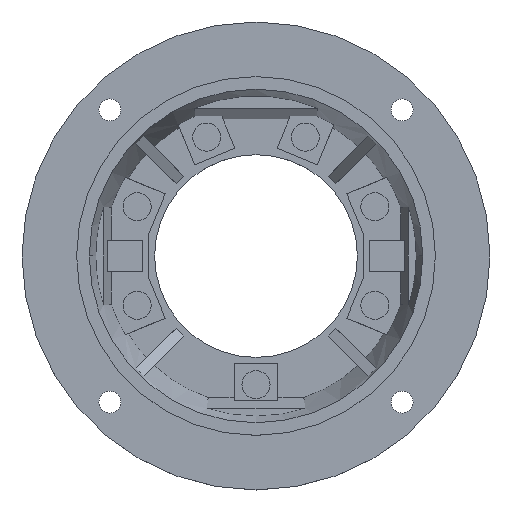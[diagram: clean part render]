
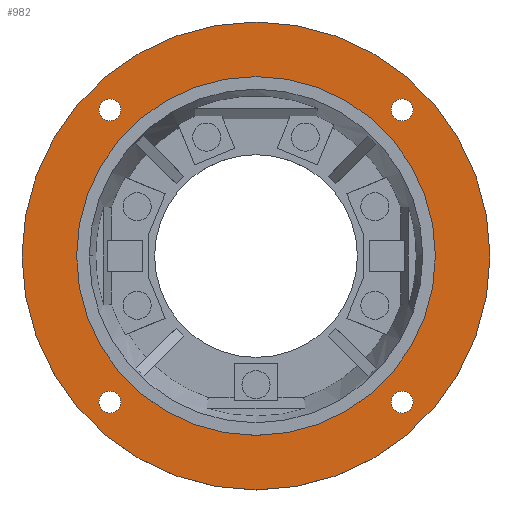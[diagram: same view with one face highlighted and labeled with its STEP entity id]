
A CAD part, top view. The second image highlights one B-rep face of the part: STEP entity #982.
In plain terms, the highlighted planar face has unit normal (0, 0, 1) as drawn and (1, 0, 0) by its records, which use the part's own axes.
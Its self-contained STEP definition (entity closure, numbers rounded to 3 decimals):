
#41=FACE_BOUND('',#1318,.T.);
#42=FACE_BOUND('',#1319,.T.);
#43=FACE_BOUND('',#1320,.T.);
#44=FACE_BOUND('',#1321,.T.);
#45=FACE_BOUND('',#1322,.T.);
#982=ADVANCED_FACE('',(#1144,#41,#42,#43,#44,#45),#3644,.T.);
#1144=FACE_OUTER_BOUND('',#1317,.T.);
#1317=EDGE_LOOP('',(#1689,#1690));
#1318=EDGE_LOOP('',(#1691,#1692));
#1319=EDGE_LOOP('',(#1693,#1694));
#1320=EDGE_LOOP('',(#1695,#1696));
#1321=EDGE_LOOP('',(#1697,#1698));
#1322=EDGE_LOOP('',(#1699,#1700));
#1689=ORIENTED_EDGE('',*,*,#2606,.F.);
#1690=ORIENTED_EDGE('',*,*,#2447,.F.);
#1691=ORIENTED_EDGE('',*,*,#2618,.F.);
#1692=ORIENTED_EDGE('',*,*,#2465,.F.);
#1693=ORIENTED_EDGE('',*,*,#2616,.F.);
#1694=ORIENTED_EDGE('',*,*,#2461,.F.);
#1695=ORIENTED_EDGE('',*,*,#2614,.F.);
#1696=ORIENTED_EDGE('',*,*,#2457,.F.);
#1697=ORIENTED_EDGE('',*,*,#2612,.F.);
#1698=ORIENTED_EDGE('',*,*,#2453,.F.);
#1699=ORIENTED_EDGE('',*,*,#2610,.F.);
#1700=ORIENTED_EDGE('',*,*,#2451,.F.);
#2447=EDGE_CURVE('',#3450,#3488,#2805,.T.);
#2451=EDGE_CURVE('',#3451,#3489,#2808,.T.);
#2453=EDGE_CURVE('',#3455,#3491,#2809,.T.);
#2457=EDGE_CURVE('',#3454,#3492,#2812,.T.);
#2461=EDGE_CURVE('',#3453,#3493,#2815,.T.);
#2465=EDGE_CURVE('',#3452,#3494,#2818,.T.);
#2606=EDGE_CURVE('',#3488,#3450,#2839,.T.);
#2610=EDGE_CURVE('',#3489,#3451,#2842,.T.);
#2612=EDGE_CURVE('',#3491,#3455,#2843,.T.);
#2614=EDGE_CURVE('',#3492,#3454,#2844,.T.);
#2616=EDGE_CURVE('',#3493,#3453,#2845,.T.);
#2618=EDGE_CURVE('',#3494,#3452,#2846,.T.);
#2805=TRIMMED_CURVE($,#2911,(#5340),(#5341),.T.,.CARTESIAN.);
#2808=TRIMMED_CURVE($,#2914,(#5351),(#5352),.T.,.CARTESIAN.);
#2809=TRIMMED_CURVE($,#2915,(#5356),(#5357),.T.,.CARTESIAN.);
#2812=TRIMMED_CURVE($,#2918,(#5367),(#5368),.T.,.CARTESIAN.);
#2815=TRIMMED_CURVE($,#2921,(#5378),(#5379),.T.,.CARTESIAN.);
#2818=TRIMMED_CURVE($,#2924,(#5389),(#5390),.T.,.CARTESIAN.);
#2839=TRIMMED_CURVE($,#2945,(#5740),(#5741),.T.,.CARTESIAN.);
#2842=TRIMMED_CURVE($,#2948,(#5751),(#5752),.T.,.CARTESIAN.);
#2843=TRIMMED_CURVE($,#2949,(#5756),(#5757),.T.,.CARTESIAN.);
#2844=TRIMMED_CURVE($,#2950,(#5761),(#5762),.T.,.CARTESIAN.);
#2845=TRIMMED_CURVE($,#2951,(#5766),(#5767),.T.,.CARTESIAN.);
#2846=TRIMMED_CURVE($,#2952,(#5771),(#5772),.T.,.CARTESIAN.);
#2911=CIRCLE('',#4159,150.);
#2914=CIRCLE('',#4162,115.);
#2915=CIRCLE('',#4163,7.);
#2918=CIRCLE('',#4166,7.);
#2921=CIRCLE('',#4169,7.);
#2924=CIRCLE('',#4172,7.);
#2945=CIRCLE('',#4193,150.);
#2948=CIRCLE('',#4196,115.);
#2949=CIRCLE('',#4197,7.);
#2950=CIRCLE('',#4198,7.);
#2951=CIRCLE('',#4199,7.);
#2952=CIRCLE('',#4200,7.);
#3450=VERTEX_POINT('',#5006);
#3451=VERTEX_POINT('',#5007);
#3452=VERTEX_POINT('',#5008);
#3453=VERTEX_POINT('',#5009);
#3454=VERTEX_POINT('',#5010);
#3455=VERTEX_POINT('',#5011);
#3488=VERTEX_POINT('',#5044);
#3489=VERTEX_POINT('',#5045);
#3491=VERTEX_POINT('',#5047);
#3492=VERTEX_POINT('',#5048);
#3493=VERTEX_POINT('',#5049);
#3494=VERTEX_POINT('',#5050);
#3644=PLANE('',#4035);
#4035=AXIS2_PLACEMENT_3D('',#4757,#4302,$);
#4159=AXIS2_PLACEMENT_3D($,#5339,#4454,#4455);
#4162=AXIS2_PLACEMENT_3D($,#5350,#4460,#4461);
#4163=AXIS2_PLACEMENT_3D($,#5355,#4462,#4463);
#4166=AXIS2_PLACEMENT_3D($,#5366,#4468,#4469);
#4169=AXIS2_PLACEMENT_3D($,#5377,#4474,#4475);
#4172=AXIS2_PLACEMENT_3D($,#5388,#4480,#4481);
#4193=AXIS2_PLACEMENT_3D($,#5739,#4522,#4523);
#4196=AXIS2_PLACEMENT_3D($,#5750,#4528,#4529);
#4197=AXIS2_PLACEMENT_3D($,#5755,#4530,#4531);
#4198=AXIS2_PLACEMENT_3D($,#5760,#4532,#4533);
#4199=AXIS2_PLACEMENT_3D($,#5765,#4534,#4535);
#4200=AXIS2_PLACEMENT_3D($,#5770,#4536,#4537);
#4302=DIRECTION('',(1.,0.,0.));
#4454=DIRECTION('',(-1.,0.,0.));
#4455=DIRECTION('',(0.,0.,-1.));
#4460=DIRECTION('',(1.,0.,0.));
#4461=DIRECTION('',(0.,0.,-1.));
#4462=DIRECTION('',(1.,0.,0.));
#4463=DIRECTION('',(0.,0.,1.));
#4468=DIRECTION('',(1.,0.,0.));
#4469=DIRECTION('',(0.,0.,1.));
#4474=DIRECTION('',(1.,0.,0.));
#4475=DIRECTION('',(0.,0.,1.));
#4480=DIRECTION('',(1.,0.,0.));
#4481=DIRECTION('',(0.,0.,1.));
#4522=DIRECTION('',(-1.,0.,0.));
#4523=DIRECTION('',(0.,0.,1.));
#4528=DIRECTION('',(1.,0.,0.));
#4529=DIRECTION('',(0.,0.,1.));
#4530=DIRECTION('',(1.,0.,0.));
#4531=DIRECTION('',(0.,0.,-1.));
#4532=DIRECTION('',(1.,0.,0.));
#4533=DIRECTION('',(0.,0.,-1.));
#4534=DIRECTION('',(1.,0.,0.));
#4535=DIRECTION('',(0.,0.,-1.));
#4536=DIRECTION('',(1.,0.,0.));
#4537=DIRECTION('',(0.,0.,-1.));
#4757=CARTESIAN_POINT('',(40.,-180.06,-180.06));
#5006=CARTESIAN_POINT('',(40.,0.,-150.));
#5007=CARTESIAN_POINT('',(40.,0.,-115.));
#5008=CARTESIAN_POINT('',(40.,-93.692,-86.692));
#5009=CARTESIAN_POINT('',(40.,-93.692,100.692));
#5010=CARTESIAN_POINT('',(40.,93.692,100.692));
#5011=CARTESIAN_POINT('',(40.,93.692,-86.692));
#5044=CARTESIAN_POINT('',(40.,0.,150.));
#5045=CARTESIAN_POINT('',(40.,0.,115.));
#5047=CARTESIAN_POINT('',(40.,93.692,-100.692));
#5048=CARTESIAN_POINT('',(40.,93.692,86.692));
#5049=CARTESIAN_POINT('',(40.,-93.692,86.692));
#5050=CARTESIAN_POINT('',(40.,-93.692,-100.692));
#5339=CARTESIAN_POINT('',(40.,0.,0.));
#5340=CARTESIAN_POINT('',(40.,0.,-150.));
#5341=CARTESIAN_POINT('',(40.,0.,150.));
#5350=CARTESIAN_POINT('',(40.,0.,0.));
#5351=CARTESIAN_POINT('',(40.,0.,-115.));
#5352=CARTESIAN_POINT('',(40.,0.,115.));
#5355=CARTESIAN_POINT('',(40.,93.692,-93.692));
#5356=CARTESIAN_POINT('',(40.,93.692,-86.692));
#5357=CARTESIAN_POINT('',(40.,93.692,-100.692));
#5366=CARTESIAN_POINT('',(40.,93.692,93.692));
#5367=CARTESIAN_POINT('',(40.,93.692,100.692));
#5368=CARTESIAN_POINT('',(40.,93.692,86.692));
#5377=CARTESIAN_POINT('',(40.,-93.692,93.692));
#5378=CARTESIAN_POINT('',(40.,-93.692,100.692));
#5379=CARTESIAN_POINT('',(40.,-93.692,86.692));
#5388=CARTESIAN_POINT('',(40.,-93.692,-93.692));
#5389=CARTESIAN_POINT('',(40.,-93.692,-86.692));
#5390=CARTESIAN_POINT('',(40.,-93.692,-100.692));
#5739=CARTESIAN_POINT('',(40.,0.,0.));
#5740=CARTESIAN_POINT('',(40.,0.,150.));
#5741=CARTESIAN_POINT('',(40.,0.,-150.));
#5750=CARTESIAN_POINT('',(40.,0.,0.));
#5751=CARTESIAN_POINT('',(40.,0.,115.));
#5752=CARTESIAN_POINT('',(40.,0.,-115.));
#5755=CARTESIAN_POINT('',(40.,93.692,-93.692));
#5756=CARTESIAN_POINT('',(40.,93.692,-100.692));
#5757=CARTESIAN_POINT('',(40.,93.692,-86.692));
#5760=CARTESIAN_POINT('',(40.,93.692,93.692));
#5761=CARTESIAN_POINT('',(40.,93.692,86.692));
#5762=CARTESIAN_POINT('',(40.,93.692,100.692));
#5765=CARTESIAN_POINT('',(40.,-93.692,93.692));
#5766=CARTESIAN_POINT('',(40.,-93.692,86.692));
#5767=CARTESIAN_POINT('',(40.,-93.692,100.692));
#5770=CARTESIAN_POINT('',(40.,-93.692,-93.692));
#5771=CARTESIAN_POINT('',(40.,-93.692,-100.692));
#5772=CARTESIAN_POINT('',(40.,-93.692,-86.692));
